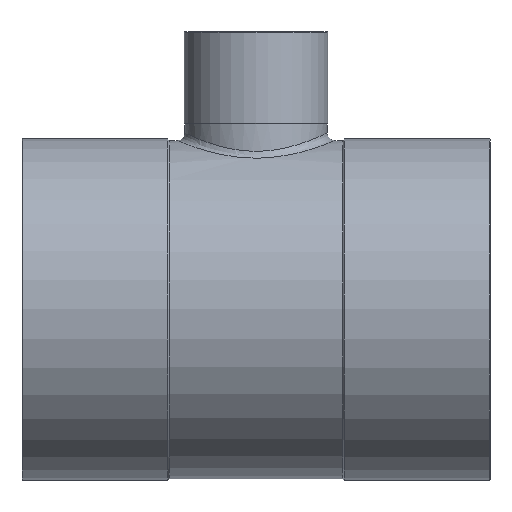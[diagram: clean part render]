
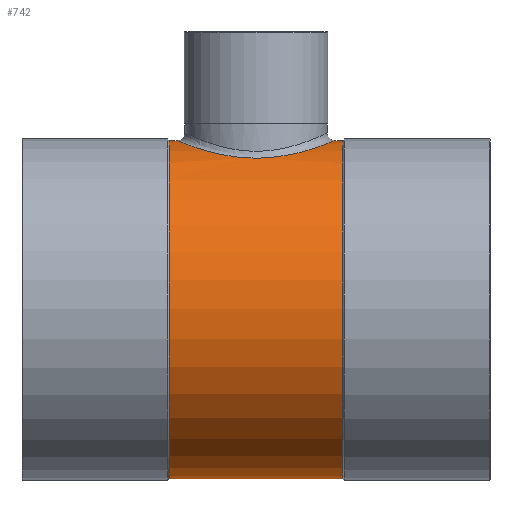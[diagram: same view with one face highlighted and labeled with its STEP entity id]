
A CAD part, top view. The second image highlights one B-rep face of the part: STEP entity #742.
In plain terms, the highlighted cylindrical face has radius 46.25 mm (diameter 92.5 mm), a partial arc.
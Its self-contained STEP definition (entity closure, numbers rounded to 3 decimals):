
#133=CARTESIAN_POINT('',(23.68,46.25,0.0));
#134=VERTEX_POINT('',#133);
#143=CARTESIAN_POINT('',(23.68,-46.25,0.));
#144=VERTEX_POINT('',#143);
#145=CARTESIAN_POINT('',(23.68,0.0,0.0));
#146=DIRECTION('',(1.0,0.0,0.0));
#147=DIRECTION('',(0.0,1.0,0.0));
#148=AXIS2_PLACEMENT_3D('',#145,#146,#147);
#149=CIRCLE('',#148,46.25);
#150=EDGE_CURVE('',#134,#144,#149,.T.);
#177=CARTESIAN_POINT('',(-23.68,46.25,0.0));
#178=VERTEX_POINT('',#177);
#194=CARTESIAN_POINT('',(-23.68,-46.25,0.));
#195=VERTEX_POINT('',#194);
#202=CARTESIAN_POINT('',(-23.68,0.0,0.0));
#203=DIRECTION('',(1.0,0.0,0.0));
#204=DIRECTION('',(0.0,1.0,0.0));
#205=AXIS2_PLACEMENT_3D('',#202,#203,#204);
#206=CIRCLE('',#205,46.25);
#207=EDGE_CURVE('',#178,#195,#206,.T.);
#698=CARTESIAN_POINT('',(11.84,0.0,0.0));
#699=DIRECTION('',(1.0,0.0,0.0));
#700=DIRECTION('',(0.0,1.0,0.0));
#701=AXIS2_PLACEMENT_3D('',#698,#699,#700);
#702=CYLINDRICAL_SURFACE('',#701,46.25);
#703=CARTESIAN_POINT('',(-21.575,46.25,0.));
#704=VERTEX_POINT('',#703);
#705=CARTESIAN_POINT('',(-23.68,46.25,0.0));
#706=DIRECTION('',(1.0,0.0,0.0));
#707=VECTOR('',#706,2.105);
#708=LINE('',#705,#707);
#709=EDGE_CURVE('',#178,#704,#708,.T.);
#710=ORIENTED_EDGE('',*,*,#709,.F.);
#711=ORIENTED_EDGE('',*,*,#207,.T.);
#712=CARTESIAN_POINT('',(23.68,-46.25,0.));
#713=DIRECTION('',(-1.0,0.0,0.0));
#714=VECTOR('',#713,47.36);
#715=LINE('',#712,#714);
#716=EDGE_CURVE('',#144,#195,#715,.T.);
#717=ORIENTED_EDGE('',*,*,#716,.F.);
#718=ORIENTED_EDGE('',*,*,#150,.F.);
#719=CARTESIAN_POINT('',(21.575,46.25,0.));
#720=VERTEX_POINT('',#719);
#721=CARTESIAN_POINT('',(21.575,46.25,0.));
#722=DIRECTION('',(1.0,0.0,0.0));
#723=VECTOR('',#722,2.105);
#724=LINE('',#721,#723);
#725=EDGE_CURVE('',#720,#134,#724,.T.);
#726=ORIENTED_EDGE('',*,*,#725,.F.);
#727=CARTESIAN_POINT('',(-21.575,46.25,0.));
#728=CARTESIAN_POINT('',(-21.575,46.25,3.923));
#729=CARTESIAN_POINT('',(-20.368,45.706,7.83));
#730=CARTESIAN_POINT('',(-14.352,43.476,16.856));
#731=CARTESIAN_POINT('',(-7.431,41.419,20.579));
#732=CARTESIAN_POINT('',(6.525,41.364,20.691));
#733=CARTESIAN_POINT('',(13.07,43.09,17.575));
#734=CARTESIAN_POINT('',(19.919,45.495,9.093));
#735=CARTESIAN_POINT('',(21.575,46.25,4.55));
#736=CARTESIAN_POINT('',(21.575,46.25,0.));
#737=B_SPLINE_CURVE_WITH_KNOTS('',3,(#727,#728,#729,#730,#731,#732,#733,#734,#735,#736),.UNSPECIFIED.,.F.,.U.,(4,2,2,2,4),(2.976,4.046,5.936,7.684,8.926),.UNSPECIFIED.);
#738=EDGE_CURVE('',#704,#720,#737,.T.);
#739=ORIENTED_EDGE('',*,*,#738,.F.);
#740=EDGE_LOOP('',(#710,#711,#717,#718,#726,#739));
#741=FACE_OUTER_BOUND('',#740,.T.);
#742=ADVANCED_FACE('',(#741),#702,.T.);
